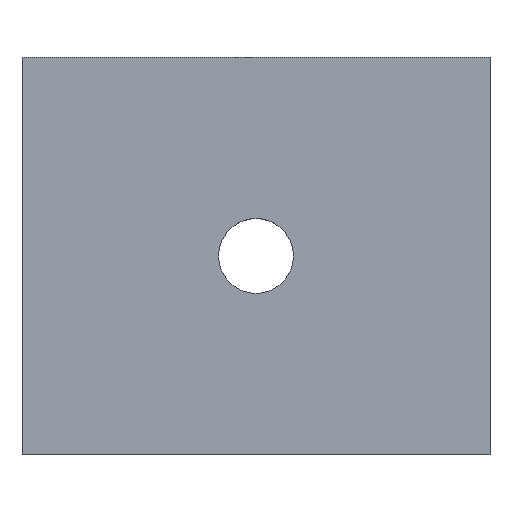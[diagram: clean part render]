
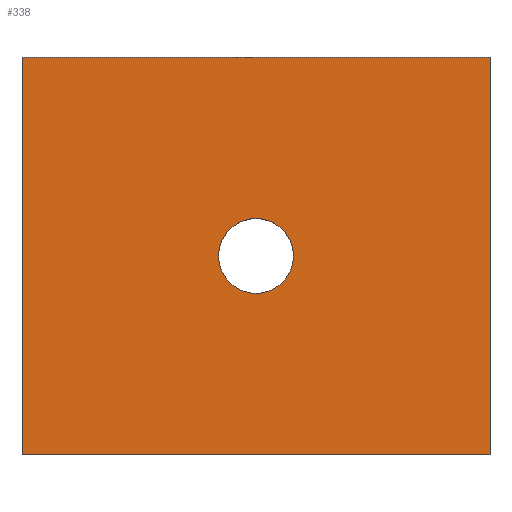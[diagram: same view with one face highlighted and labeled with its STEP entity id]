
A CAD part, top view. The second image highlights one B-rep face of the part: STEP entity #338.
In plain terms, the highlighted planar face has unit normal (0, 0, 1).
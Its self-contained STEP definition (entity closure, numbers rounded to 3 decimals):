
#163=CIRCLE('',#324,8.);
#169=ORIENTED_EDGE('',*,*,#231,.T.);
#170=ORIENTED_EDGE('',*,*,#232,.F.);
#171=ORIENTED_EDGE('',*,*,#227,.F.);
#172=ORIENTED_EDGE('',*,*,#233,.T.);
#173=ORIENTED_EDGE('',*,*,#234,.F.);
#193=VECTOR('',#263,1.);
#197=VECTOR('',#269,1.);
#198=VECTOR('',#270,1.);
#199=VECTOR('',#271,1.);
#205=LINE('',#294,#193);
#209=LINE('',#303,#197);
#210=LINE('',#304,#198);
#211=LINE('',#305,#199);
#217=VERTEX_POINT('',#292);
#218=VERTEX_POINT('',#293);
#221=VERTEX_POINT('',#301);
#222=VERTEX_POINT('',#302);
#223=VERTEX_POINT('',#306);
#227=EDGE_CURVE('',#217,#218,#205,.T.);
#231=EDGE_CURVE('',#221,#222,#209,.T.);
#232=EDGE_CURVE('',#218,#222,#210,.T.);
#233=EDGE_CURVE('',#217,#221,#211,.T.);
#234=EDGE_CURVE('',#223,#223,#163,.T.);
#242=EDGE_LOOP('',(#169,#170,#171,#172));
#243=EDGE_LOOP('',(#173));
#252=FACE_BOUND('',#242,.T.);
#253=FACE_BOUND('',#243,.T.);
#263=DIRECTION('',(-100.,0.,0.));
#267=DIRECTION('',(0.,0.,1.));
#268=DIRECTION('',(0.,-1.,0.));
#269=DIRECTION('',(-100.,0.,0.));
#270=DIRECTION('',(0.,85.,0.));
#271=DIRECTION('',(0.,85.,0.));
#272=DIRECTION('',(0.,0.,1.));
#273=DIRECTION('',(0.,-8.,0.));
#292=CARTESIAN_POINT('',(100.,0.,0.));
#293=CARTESIAN_POINT('',(0.,0.,0.));
#294=CARTESIAN_POINT('',(100.,0.,0.));
#300=CARTESIAN_POINT('',(100.,85.,0.));
#301=CARTESIAN_POINT('',(100.,85.,0.));
#302=CARTESIAN_POINT('',(0.,85.,0.));
#303=CARTESIAN_POINT('',(100.,85.,0.));
#304=CARTESIAN_POINT('',(0.,0.,0.));
#305=CARTESIAN_POINT('',(100.,0.,0.));
#306=CARTESIAN_POINT('',(50.,34.5,0.));
#307=CARTESIAN_POINT('',(50.,42.5,0.));
#323=AXIS2_PLACEMENT_3D('',#300,#267,#268);
#324=AXIS2_PLACEMENT_3D('',#307,#272,#273);
#332=PLANE('',#323);
#338=ADVANCED_FACE('',(#252,#253),#332,.T.);
